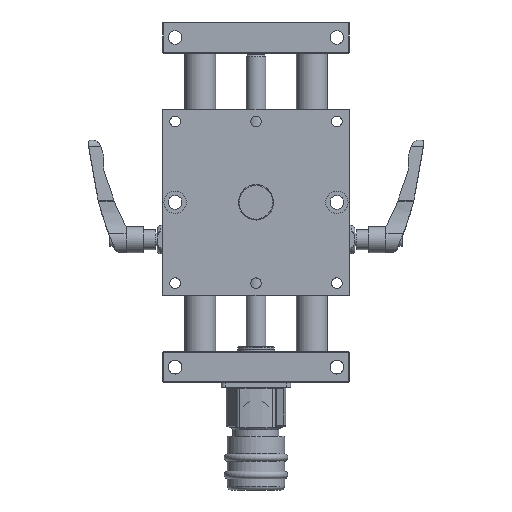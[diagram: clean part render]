
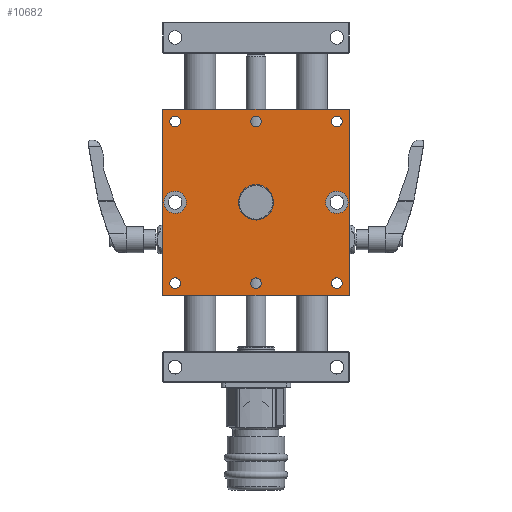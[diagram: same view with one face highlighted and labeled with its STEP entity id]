
A CAD part, front view. The second image highlights one B-rep face of the part: STEP entity #10682.
In plain terms, the highlighted planar face has unit normal (0, -1, 0) as drawn and (0, 0, -1) by its records, which use the part's own axes.
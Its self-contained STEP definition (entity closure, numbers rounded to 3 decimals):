
#503 = EDGE_CURVE ( 'NONE', #10760, #10760, #11612, .T. ) ;
#667 = DIRECTION ( 'NONE',  ( 0., 1., 0. ) ) ;
#729 = EDGE_LOOP ( 'NONE', ( #21797 ) ) ;
#935 = LINE ( 'NONE', #24747, #9736 ) ;
#1039 = LINE ( 'NONE', #7980, #15438 ) ;
#1460 = EDGE_CURVE ( 'NONE', #28067, #28067, #10214, .T. ) ;
#1506 = VERTEX_POINT ( 'NONE', #19225 ) ;
#1602 = EDGE_CURVE ( 'NONE', #20339, #11080, #935, .T. ) ;
#1845 = PLANE ( 'NONE',  #30253 ) ;
#1847 = CARTESIAN_POINT ( 'NONE',  ( 5.75, 75., -50. ) ) ;
#1908 = ORIENTED_EDGE ( 'NONE', *, *, #1602, .T. ) ;
#2378 = CARTESIAN_POINT ( 'NONE',  ( 75., 75., -50. ) ) ;
#3077 = CIRCLE ( 'NONE', #9079, 4.25 ) ;
#3207 = CARTESIAN_POINT ( 'NONE',  ( 60.8, 75., -50. ) ) ;
#3541 = VECTOR ( 'NONE', #667, 1000. ) ;
#3879 = FACE_BOUND ( 'NONE', #29074, .T. ) ;
#4042 = CARTESIAN_POINT ( 'NONE',  ( 0.2, 0.2, -50. ) ) ;
#4434 = EDGE_CURVE ( 'NONE', #4900, #4900, #18836, .T. ) ;
#4509 = ORIENTED_EDGE ( 'NONE', *, *, #1460, .F. ) ;
#4761 = DIRECTION ( 'NONE',  ( -1., 0., 0. ) ) ;
#4900 = VERTEX_POINT ( 'NONE', #28556 ) ;
#5382 = DIRECTION ( 'NONE',  ( 0., 0., -1. ) ) ;
#5466 = DIRECTION ( 'NONE',  ( 0., -1., 0. ) ) ;
#5935 = FACE_BOUND ( 'NONE', #27215, .T. ) ;
#6551 = FACE_BOUND ( 'NONE', #12605, .T. ) ;
#6625 = DIRECTION ( 'NONE',  ( 0., 0., -1. ) ) ;
#6718 = EDGE_CURVE ( 'NONE', #8031, #8031, #7582, .T. ) ;
#7192 = CIRCLE ( 'NONE', #21291, 4.25 ) ;
#7582 = CIRCLE ( 'NONE', #25192, 9. ) ;
#7784 = ORIENTED_EDGE ( 'NONE', *, *, #20582, .T. ) ;
#7906 = CARTESIAN_POINT ( 'NONE',  ( 0.2, 150., -50. ) ) ;
#7917 = CARTESIAN_POINT ( 'NONE',  ( 10., 75., -50. ) ) ;
#7923 = CARTESIAN_POINT ( 'NONE',  ( 10., 140., -50. ) ) ;
#7980 = CARTESIAN_POINT ( 'NONE',  ( 149.8, 0., -50. ) ) ;
#8031 = VERTEX_POINT ( 'NONE', #19890 ) ;
#8078 = DIRECTION ( 'NONE',  ( 0., 0., -1. ) ) ;
#8485 = VERTEX_POINT ( 'NONE', #4042 ) ;
#8522 = CARTESIAN_POINT ( 'NONE',  ( 75., 140., -50. ) ) ;
#8554 = ORIENTED_EDGE ( 'NONE', *, *, #26703, .T. ) ;
#8834 = DIRECTION ( 'NONE',  ( 0., 0., 1. ) ) ;
#9079 = AXIS2_PLACEMENT_3D ( 'NONE', #11955, #9251, #16839 ) ;
#9119 = EDGE_LOOP ( 'NONE', ( #4509 ) ) ;
#9251 = DIRECTION ( 'NONE',  ( 0., 0., -1. ) ) ;
#9518 = DIRECTION ( 'NONE',  ( -1., 0., 0. ) ) ;
#9519 = VECTOR ( 'NONE', #25998, 1000. ) ;
#9579 = LINE ( 'NONE', #19208, #9519 ) ;
#9597 = AXIS2_PLACEMENT_3D ( 'NONE', #14103, #11766, #9518 ) ;
#9736 = VECTOR ( 'NONE', #10260, 1000. ) ;
#10092 = AXIS2_PLACEMENT_3D ( 'NONE', #14379, #31085, #4761 ) ;
#10214 = CIRCLE ( 'NONE', #22292, 4.25 ) ;
#10260 = DIRECTION ( 'NONE',  ( 1., 0., 0. ) ) ;
#10443 = DIRECTION ( 'NONE',  ( 0., 0., -1. ) ) ;
#10461 = DIRECTION ( 'NONE',  ( -1., 0., 0. ) ) ;
#10682 = ADVANCED_FACE ( 'NONE', ( #30376, #5935, #15535, #13186, #3879, #27840, #25162, #6551, #18999, #11599 ), #1845, .T. ) ;
#10760 = VERTEX_POINT ( 'NONE', #10911 ) ;
#10911 = CARTESIAN_POINT ( 'NONE',  ( 135.75, 140., -50. ) ) ;
#11080 = VERTEX_POINT ( 'NONE', #21162 ) ;
#11309 = CARTESIAN_POINT ( 'NONE',  ( 135.75, 10., -50. ) ) ;
#11449 = DIRECTION ( 'NONE',  ( -1., 0., 0. ) ) ;
#11599 = FACE_OUTER_BOUND ( 'NONE', #17563, .T. ) ;
#11612 = CIRCLE ( 'NONE', #9597, 4.25 ) ;
#11766 = DIRECTION ( 'NONE',  ( 0., 0., -1. ) ) ;
#11955 = CARTESIAN_POINT ( 'NONE',  ( 140., 10., -50. ) ) ;
#12114 = CIRCLE ( 'NONE', #10092, 4.25 ) ;
#12368 = ORIENTED_EDGE ( 'NONE', *, *, #26450, .F. ) ;
#12605 = EDGE_LOOP ( 'NONE', ( #30928 ) ) ;
#13186 = FACE_BOUND ( 'NONE', #9119, .T. ) ;
#13424 = ORIENTED_EDGE ( 'NONE', *, *, #29561, .T. ) ;
#14103 = CARTESIAN_POINT ( 'NONE',  ( 140., 140., -50. ) ) ;
#14379 = CARTESIAN_POINT ( 'NONE',  ( 140., 75., -50. ) ) ;
#14499 = DIRECTION ( 'NONE',  ( -1., 0., 0. ) ) ;
#14668 = EDGE_LOOP ( 'NONE', ( #8554 ) ) ;
#14862 = DIRECTION ( 'NONE',  ( -1., 0., 0. ) ) ;
#15375 = ORIENTED_EDGE ( 'NONE', *, *, #22916, .F. ) ;
#15438 = VECTOR ( 'NONE', #5466, 1000. ) ;
#15535 = FACE_BOUND ( 'NONE', #23935, .T. ) ;
#15540 = AXIS2_PLACEMENT_3D ( 'NONE', #7917, #10443, #14862 ) ;
#15937 = VERTEX_POINT ( 'NONE', #30299 ) ;
#16076 = DIRECTION ( 'NONE',  ( -1., 0., 0. ) ) ;
#16839 = DIRECTION ( 'NONE',  ( -1., 0., 0. ) ) ;
#17247 = VERTEX_POINT ( 'NONE', #22108 ) ;
#17519 = ORIENTED_EDGE ( 'NONE', *, *, #22254, .T. ) ;
#17563 = EDGE_LOOP ( 'NONE', ( #17519, #7784, #13424, #1908 ) ) ;
#18492 = ORIENTED_EDGE ( 'NONE', *, *, #24593, .F. ) ;
#18836 = CIRCLE ( 'NONE', #29950, 9. ) ;
#18999 = FACE_BOUND ( 'NONE', #14668, .T. ) ;
#19146 = DIRECTION ( 'NONE',  ( 0., 0., -1. ) ) ;
#19208 = CARTESIAN_POINT ( 'NONE',  ( 0., 0.2, -50. ) ) ;
#19225 = CARTESIAN_POINT ( 'NONE',  ( 149.8, 0.2, -50. ) ) ;
#19719 = CARTESIAN_POINT ( 'NONE',  ( 75., 10., -50. ) ) ;
#19890 = CARTESIAN_POINT ( 'NONE',  ( 66., 10., -50. ) ) ;
#20339 = VERTEX_POINT ( 'NONE', #31091 ) ;
#20582 = EDGE_CURVE ( 'NONE', #1506, #8485, #9579, .T. ) ;
#21160 = EDGE_LOOP ( 'NONE', ( #12368 ) ) ;
#21162 = CARTESIAN_POINT ( 'NONE',  ( 149.8, 149.8, -50. ) ) ;
#21291 = AXIS2_PLACEMENT_3D ( 'NONE', #7923, #29211, #29535 ) ;
#21797 = ORIENTED_EDGE ( 'NONE', *, *, #503, .F. ) ;
#22083 = LINE ( 'NONE', #7906, #3541 ) ;
#22108 = CARTESIAN_POINT ( 'NONE',  ( 5.75, 140., -50. ) ) ;
#22235 = DIRECTION ( 'NONE',  ( -1., 0., 0. ) ) ;
#22254 = EDGE_CURVE ( 'NONE', #11080, #1506, #1039, .T. ) ;
#22292 = AXIS2_PLACEMENT_3D ( 'NONE', #31060, #6625, #14499 ) ;
#22573 = VERTEX_POINT ( 'NONE', #3207 ) ;
#22916 = EDGE_CURVE ( 'NONE', #26855, #26855, #25121, .T. ) ;
#23358 = CARTESIAN_POINT ( 'NONE',  ( 5.75, 10., -50. ) ) ;
#23935 = EDGE_LOOP ( 'NONE', ( #18492 ) ) ;
#24593 = EDGE_CURVE ( 'NONE', #28315, #28315, #3077, .T. ) ;
#24747 = CARTESIAN_POINT ( 'NONE',  ( 150., 149.8, -50. ) ) ;
#25121 = CIRCLE ( 'NONE', #15540, 4.25 ) ;
#25162 = FACE_BOUND ( 'NONE', #29636, .T. ) ;
#25192 = AXIS2_PLACEMENT_3D ( 'NONE', #19719, #5382, #22235 ) ;
#25821 = AXIS2_PLACEMENT_3D ( 'NONE', #2378, #8834, #16076 ) ;
#25911 = ORIENTED_EDGE ( 'NONE', *, *, #4434, .F. ) ;
#25998 = DIRECTION ( 'NONE',  ( -1., 0., 0. ) ) ;
#26246 = CARTESIAN_POINT ( 'NONE',  ( 0., 150., -50. ) ) ;
#26450 = EDGE_CURVE ( 'NONE', #17247, #17247, #7192, .T. ) ;
#26703 = EDGE_CURVE ( 'NONE', #22573, #22573, #29864, .T. ) ;
#26855 = VERTEX_POINT ( 'NONE', #1847 ) ;
#27037 = ORIENTED_EDGE ( 'NONE', *, *, #29517, .F. ) ;
#27215 = EDGE_LOOP ( 'NONE', ( #27037 ) ) ;
#27840 = FACE_BOUND ( 'NONE', #21160, .T. ) ;
#28067 = VERTEX_POINT ( 'NONE', #23358 ) ;
#28315 = VERTEX_POINT ( 'NONE', #11309 ) ;
#28556 = CARTESIAN_POINT ( 'NONE',  ( 66., 140., -50. ) ) ;
#29074 = EDGE_LOOP ( 'NONE', ( #15375 ) ) ;
#29211 = DIRECTION ( 'NONE',  ( 0., 0., -1. ) ) ;
#29517 = EDGE_CURVE ( 'NONE', #15937, #15937, #12114, .T. ) ;
#29535 = DIRECTION ( 'NONE',  ( -1., 0., 0. ) ) ;
#29561 = EDGE_CURVE ( 'NONE', #8485, #20339, #22083, .T. ) ;
#29636 = EDGE_LOOP ( 'NONE', ( #25911 ) ) ;
#29864 = CIRCLE ( 'NONE', #25821, 14.2 ) ;
#29950 = AXIS2_PLACEMENT_3D ( 'NONE', #8522, #8078, #10461 ) ;
#30253 = AXIS2_PLACEMENT_3D ( 'NONE', #26246, #19146, #11449 ) ;
#30299 = CARTESIAN_POINT ( 'NONE',  ( 135.75, 75., -50. ) ) ;
#30376 = FACE_BOUND ( 'NONE', #729, .T. ) ;
#30928 = ORIENTED_EDGE ( 'NONE', *, *, #6718, .F. ) ;
#31060 = CARTESIAN_POINT ( 'NONE',  ( 10., 10., -50. ) ) ;
#31085 = DIRECTION ( 'NONE',  ( 0., 0., -1. ) ) ;
#31091 = CARTESIAN_POINT ( 'NONE',  ( 0.2, 149.8, -50. ) ) ;
